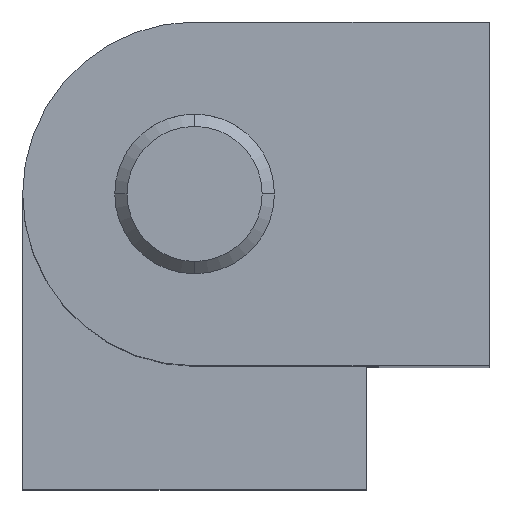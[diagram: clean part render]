
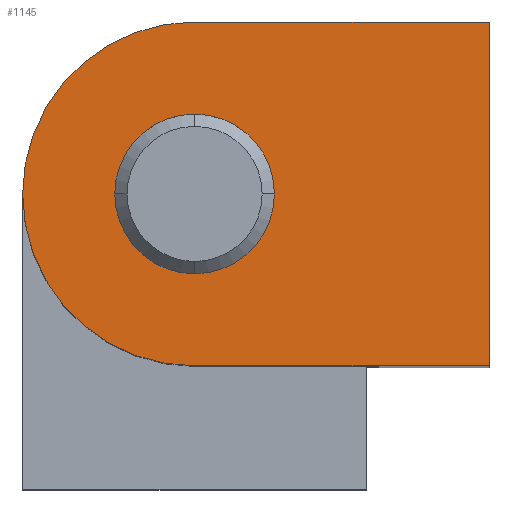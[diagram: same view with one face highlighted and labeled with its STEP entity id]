
A CAD part, top view. The second image highlights one B-rep face of the part: STEP entity #1145.
In plain terms, the highlighted planar face has unit normal (0, 0, 1).
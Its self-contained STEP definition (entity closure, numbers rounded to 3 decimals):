
#567=CARTESIAN_POINT('',(3.25,-12.0,38.5));
#568=VERTEX_POINT('',#567);
#577=CARTESIAN_POINT('',(-3.25,-12.0,38.5));
#578=VERTEX_POINT('',#577);
#579=CARTESIAN_POINT('',(0.,-12.0,38.5));
#580=DIRECTION('',(0.0,0.0,-1.0));
#581=DIRECTION('',(1.0,0.0,0.0));
#582=AXIS2_PLACEMENT_3D('',#579,#580,#581);
#583=CIRCLE('',#582,3.25);
#584=EDGE_CURVE('',#578,#568,#583,.T.);
#860=CARTESIAN_POINT('',(-7.,-12.0,38.5));
#861=VERTEX_POINT('',#860);
#868=CARTESIAN_POINT('',(-7.0,0.0,38.5));
#869=VERTEX_POINT('',#868);
#870=CARTESIAN_POINT('',(-7.,-12.0,38.5));
#871=DIRECTION('',(0.0,1.0,0.0));
#872=VECTOR('',#871,12.0);
#873=LINE('',#870,#872);
#874=EDGE_CURVE('',#861,#869,#873,.T.);
#907=CARTESIAN_POINT('',(7.,-12.,38.5));
#908=VERTEX_POINT('',#907);
#915=CARTESIAN_POINT('',(0.,-12.0,38.5));
#916=DIRECTION('',(0.0,0.0,-1.0));
#917=DIRECTION('',(1.0,0.0,0.0));
#918=AXIS2_PLACEMENT_3D('',#915,#916,#917);
#919=CIRCLE('',#918,7.0);
#920=EDGE_CURVE('',#908,#861,#919,.T.);
#950=CARTESIAN_POINT('',(7.0,0.0,38.5));
#951=VERTEX_POINT('',#950);
#958=CARTESIAN_POINT('',(7.0,0.0,38.5));
#959=DIRECTION('',(0.0,-1.0,0.0));
#960=VECTOR('',#959,12.);
#961=LINE('',#958,#960);
#962=EDGE_CURVE('',#951,#908,#961,.T.);
#994=CARTESIAN_POINT('',(0.,-12.0,38.5));
#995=DIRECTION('',(0.0,0.0,-1.0));
#996=DIRECTION('',(1.0,0.0,0.0));
#997=AXIS2_PLACEMENT_3D('',#994,#995,#996);
#998=CIRCLE('',#997,3.25);
#999=EDGE_CURVE('',#568,#578,#998,.T.);
#1083=CARTESIAN_POINT('',(-7.0,0.0,38.5));
#1084=DIRECTION('',(1.0,0.0,0.0));
#1085=VECTOR('',#1084,14.0);
#1086=LINE('',#1083,#1085);
#1087=EDGE_CURVE('',#869,#951,#1086,.T.);
#1130=CARTESIAN_POINT('',(-7.7,-19.95,38.5));
#1131=DIRECTION('',(0.0,0.0,1.0));
#1132=DIRECTION('',(1.0,0.0,0.0));
#1133=AXIS2_PLACEMENT_3D('',#1130,#1131,#1132);
#1134=PLANE('',#1133);
#1135=ORIENTED_EDGE('',*,*,#874,.F.);
#1136=ORIENTED_EDGE('',*,*,#920,.F.);
#1137=ORIENTED_EDGE('',*,*,#962,.F.);
#1138=ORIENTED_EDGE('',*,*,#1087,.F.);
#1139=EDGE_LOOP('',(#1135,#1136,#1137,#1138));
#1140=FACE_OUTER_BOUND('',#1139,.T.);
#1141=ORIENTED_EDGE('',*,*,#999,.T.);
#1142=ORIENTED_EDGE('',*,*,#584,.T.);
#1143=EDGE_LOOP('',(#1141,#1142));
#1144=FACE_BOUND('',#1143,.T.);
#1145=ADVANCED_FACE('',(#1140,#1144),#1134,.T.);
